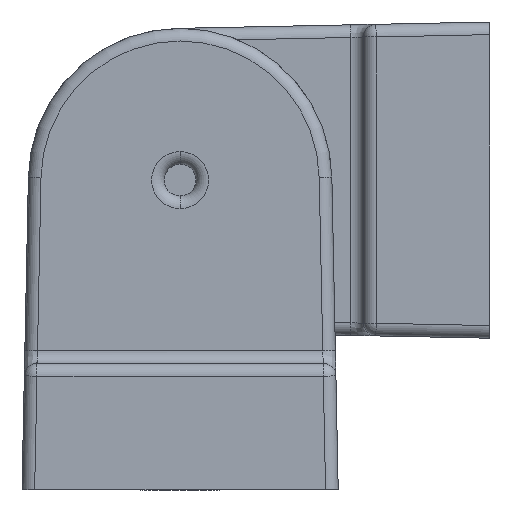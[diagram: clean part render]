
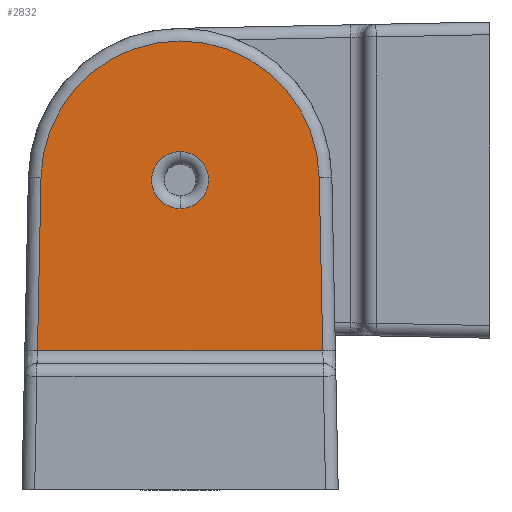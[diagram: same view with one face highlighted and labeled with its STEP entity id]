
A CAD part, front view. The second image highlights one B-rep face of the part: STEP entity #2832.
In plain terms, the highlighted planar face has unit normal (0, -1, 0) as drawn and (0, 1, 0) by its records, which use the part's own axes.
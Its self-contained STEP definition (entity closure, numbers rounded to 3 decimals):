
#17 = ORIENTED_EDGE ( 'NONE', *, *, #1525, .T. ) ;
#66 = AXIS2_PLACEMENT_3D ( 'NONE', #4468, #7236, #3912 ) ;
#306 = AXIS2_PLACEMENT_3D ( 'NONE', #5674, #2328, #6238 ) ;
#344 = ORIENTED_EDGE ( 'NONE', *, *, #3892, .T. ) ;
#382 = DIRECTION ( 'NONE',  ( 0., 0., 1. ) ) ;
#516 = VERTEX_POINT ( 'NONE', #2627 ) ;
#547 = DIRECTION ( 'NONE',  ( 1., 0., 0. ) ) ;
#568 = CARTESIAN_POINT ( 'NONE',  ( 11.276, 50.5, 13.5 ) ) ;
#950 = VERTEX_POINT ( 'NONE', #6775 ) ;
#1023 = CIRCLE ( 'NONE', #5385, 11. ) ;
#1189 = VERTEX_POINT ( 'NONE', #2593 ) ;
#1326 = CIRCLE ( 'NONE', #306, 2.25 ) ;
#1359 = VERTEX_POINT ( 'NONE', #1966 ) ;
#1413 = ORIENTED_EDGE ( 'NONE', *, *, #6995, .T. ) ;
#1428 = CARTESIAN_POINT ( 'NONE',  ( -10.998, 50.5, -0.223 ) ) ;
#1525 = EDGE_CURVE ( 'NONE', #950, #3464, #2257, .T. ) ;
#1966 = CARTESIAN_POINT ( 'NONE',  ( 0., 50.5, 2.25 ) ) ;
#2257 = LINE ( 'NONE', #5404, #5053 ) ;
#2264 = CARTESIAN_POINT ( 'NONE',  ( -11.297, 50.5, 14.52 ) ) ;
#2292 = EDGE_CURVE ( 'NONE', #1189, #2676, #1023, .T. ) ;
#2297 = DIRECTION ( 'NONE',  ( -0.02, 0., -1. ) ) ;
#2328 = DIRECTION ( 'NONE',  ( 0., -1., 0. ) ) ;
#2593 = CARTESIAN_POINT ( 'NONE',  ( 10.998, 50.5, -0.223 ) ) ;
#2627 = CARTESIAN_POINT ( 'NONE',  ( 0., 50.5, -2.25 ) ) ;
#2676 = VERTEX_POINT ( 'NONE', #1428 ) ;
#2818 = LINE ( 'NONE', #6189, #4136 ) ;
#2832 = ADVANCED_FACE ( 'NONE', ( #5134, #3659 ), #6675, .T. ) ;
#2836 = DIRECTION ( 'NONE',  ( -0.02, 0., 1. ) ) ;
#2843 = DIRECTION ( 'NONE',  ( 0., 1., 0. ) ) ;
#3121 = EDGE_LOOP ( 'NONE', ( #4957, #17, #1413, #6947 ) ) ;
#3147 = CIRCLE ( 'NONE', #3206, 2.25 ) ;
#3206 = AXIS2_PLACEMENT_3D ( 'NONE', #7082, #3765, #382 ) ;
#3464 = VERTEX_POINT ( 'NONE', #568 ) ;
#3659 = FACE_BOUND ( 'NONE', #4981, .T. ) ;
#3765 = DIRECTION ( 'NONE',  ( 0., -1., 0. ) ) ;
#3892 = EDGE_CURVE ( 'NONE', #516, #1359, #3147, .T. ) ;
#3912 = DIRECTION ( 'NONE',  ( 0., 0., 1. ) ) ;
#4110 = LINE ( 'NONE', #2264, #5580 ) ;
#4136 = VECTOR ( 'NONE', #2297, 1000. ) ;
#4468 = CARTESIAN_POINT ( 'NONE',  ( 137.5, 50.5, 14.5 ) ) ;
#4957 = ORIENTED_EDGE ( 'NONE', *, *, #6086, .T. ) ;
#4981 = EDGE_LOOP ( 'NONE', ( #6859, #344 ) ) ;
#5053 = VECTOR ( 'NONE', #547, 1000. ) ;
#5134 = FACE_OUTER_BOUND ( 'NONE', #3121, .T. ) ;
#5385 = AXIS2_PLACEMENT_3D ( 'NONE', #6184, #2843, #6730 ) ;
#5404 = CARTESIAN_POINT ( 'NONE',  ( 12.297, 50.5, 13.5 ) ) ;
#5580 = VECTOR ( 'NONE', #2836, 1000. ) ;
#5674 = CARTESIAN_POINT ( 'NONE',  ( 0., 50.5, 0. ) ) ;
#6086 = EDGE_CURVE ( 'NONE', #2676, #950, #4110, .T. ) ;
#6184 = CARTESIAN_POINT ( 'NONE',  ( 0., 50.5, 0. ) ) ;
#6189 = CARTESIAN_POINT ( 'NONE',  ( 10.998, 50.5, -0.223 ) ) ;
#6238 = DIRECTION ( 'NONE',  ( 0., 0., 1. ) ) ;
#6675 = PLANE ( 'NONE',  #66 ) ;
#6730 = DIRECTION ( 'NONE',  ( 0., 0., 1. ) ) ;
#6775 = CARTESIAN_POINT ( 'NONE',  ( -11.276, 50.5, 13.5 ) ) ;
#6859 = ORIENTED_EDGE ( 'NONE', *, *, #7016, .T. ) ;
#6947 = ORIENTED_EDGE ( 'NONE', *, *, #2292, .T. ) ;
#6995 = EDGE_CURVE ( 'NONE', #3464, #1189, #2818, .T. ) ;
#7016 = EDGE_CURVE ( 'NONE', #1359, #516, #1326, .T. ) ;
#7082 = CARTESIAN_POINT ( 'NONE',  ( 0., 50.5, 0. ) ) ;
#7236 = DIRECTION ( 'NONE',  ( 0., 1., 0. ) ) ;
